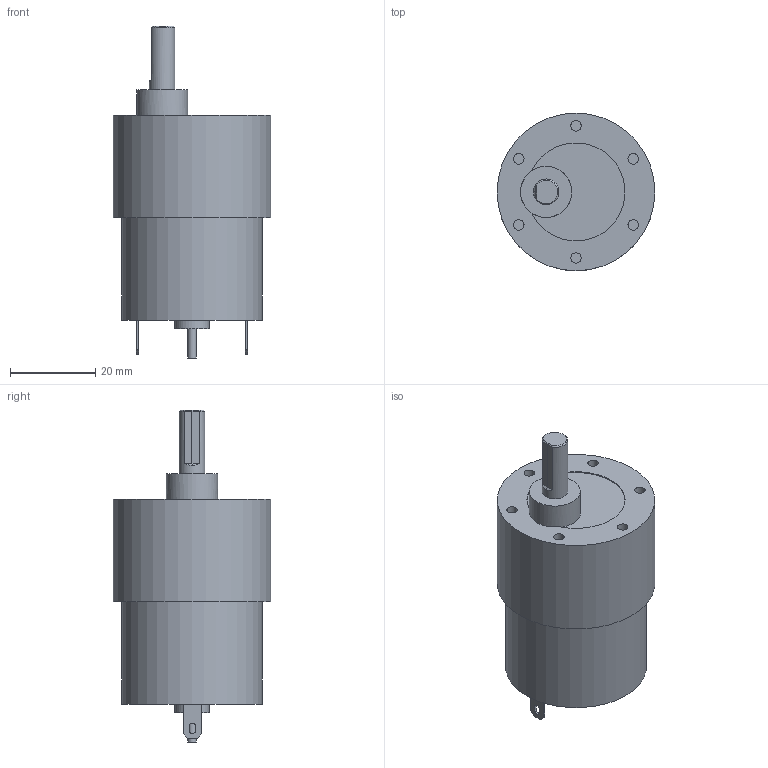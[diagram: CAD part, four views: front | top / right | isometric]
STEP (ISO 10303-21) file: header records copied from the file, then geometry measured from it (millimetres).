
FILE_DESCRIPTION(/* description */ ('Alibre Inc.'),/* implementation_level */ '2;1');
FILE_NAME(/* name */ 'export0',/* time_stamp */ '2013-08-02T13:38:29-06:00',/* author */ (''),/* organization */ (''),/* preprocessor_version */ 'ST-DEVELOPER v14',/* originating_system */ 'Alibre',/* authorisation */ '');
FILE_SCHEMA (('ALIBRE_SCHEMA','CONFIG_CONTROL_DESIGN'));
Length unit declared in the file: centimetre
Products named in the file (1): ID_1
Bounding box: 37 x 37 x 77.9 mm (x, y, z)
Volume: 47392.7 mm3; surface area: 8347.3 mm2
Topology: 1 solids, 1 shells, 57 faces, 122 edges, 80 vertices
Faces by surface type: plane 39, cylinder 17, cone 1
Full cylindrical faces by diameter (mm): 2 x1, 2.459 x6, 6 x1, 8 x1, 12 x1, 33 x1, 37 x1
Entity records: 3378 total; most frequent: CARTESIAN_POINT 464, DIRECTION 283, ORIENTED_EDGE 216, PERSISTANTTOPOLOGYATTRIBUTE 147, REFERENCEDEPENDENTUV 137, CONSTRAINTPAIRUV 122, VECTOR 119, AXIS2_PLACEMENT_3D 115
